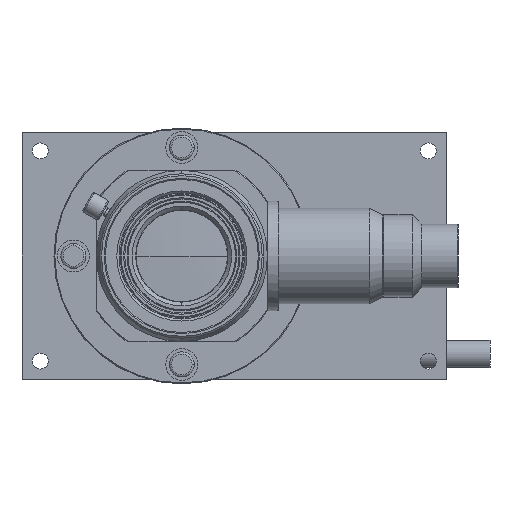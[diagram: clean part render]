
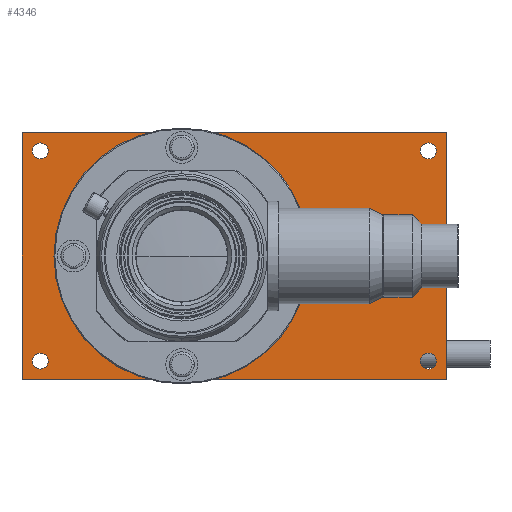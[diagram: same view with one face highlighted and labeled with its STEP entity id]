
A CAD part, left-side view. The second image highlights one B-rep face of the part: STEP entity #4346.
In plain terms, the highlighted planar face has unit normal (-1, 0, 0).
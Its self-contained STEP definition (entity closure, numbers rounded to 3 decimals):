
#53 = VERTEX_POINT ( 'NONE', #8215 ) ;
#158 = DIRECTION ( 'NONE',  ( 1., 0., 0. ) ) ;
#208 = CARTESIAN_POINT ( 'NONE',  ( -164.992, 35., 27. ) ) ;
#249 = CARTESIAN_POINT ( 'NONE',  ( -164.992, -54., 23. ) ) ;
#290 = DIRECTION ( 'NONE',  ( 0., 1., 0. ) ) ;
#420 = CARTESIAN_POINT ( 'NONE',  ( -164.992, 31., -21.25 ) ) ;
#449 = CIRCLE ( 'NONE', #3193, 1.75 ) ;
#571 = EDGE_LOOP ( 'NONE', ( #2048, #8032, #1003, #8927 ) ) ;
#578 = DIRECTION ( 'NONE',  ( 0., 0., -1. ) ) ;
#701 = AXIS2_PLACEMENT_3D ( 'NONE', #3864, #10530, #4809 ) ;
#730 = CARTESIAN_POINT ( 'NONE',  ( -164.992, -54., -23. ) ) ;
#769 = CARTESIAN_POINT ( 'NONE',  ( -164.992, 31., 21.25 ) ) ;
#814 = EDGE_CURVE ( 'NONE', #8146, #7114, #7080, .T. ) ;
#847 = ORIENTED_EDGE ( 'NONE', *, *, #1021, .T. ) ;
#1003 = ORIENTED_EDGE ( 'NONE', *, *, #12326, .F. ) ;
#1021 = EDGE_CURVE ( 'NONE', #9842, #12402, #9772, .T. ) ;
#1032 = LINE ( 'NONE', #208, #10584 ) ;
#1220 = DIRECTION ( 'NONE',  ( 0., 0., -1. ) ) ;
#1378 = DIRECTION ( 'NONE',  ( 0., 0., -1. ) ) ;
#1403 = AXIS2_PLACEMENT_3D ( 'NONE', #5859, #158, #6803 ) ;
#1462 = CIRCLE ( 'NONE', #701, 1.75 ) ;
#1478 = FACE_BOUND ( 'NONE', #4646, .T. ) ;
#1585 = DIRECTION ( 'NONE',  ( 1., 0., 0. ) ) ;
#1691 = AXIS2_PLACEMENT_3D ( 'NONE', #9135, #1585, #8248 ) ;
#1757 = EDGE_CURVE ( 'NONE', #5618, #2269, #9724, .T. ) ;
#1868 = CARTESIAN_POINT ( 'NONE',  ( -164.992, -54., -24.75 ) ) ;
#1953 = EDGE_CURVE ( 'NONE', #2269, #53, #9875, .T. ) ;
#2000 = CARTESIAN_POINT ( 'NONE',  ( -164.992, 0., -18.6 ) ) ;
#2044 = DIRECTION ( 'NONE',  ( 1., 0., 0. ) ) ;
#2048 = ORIENTED_EDGE ( 'NONE', *, *, #1757, .F. ) ;
#2154 = DIRECTION ( 'NONE',  ( 1., 0., 0. ) ) ;
#2265 = AXIS2_PLACEMENT_3D ( 'NONE', #12010, #8130, #578 ) ;
#2269 = VERTEX_POINT ( 'NONE', #7512 ) ;
#2289 = DIRECTION ( 'NONE',  ( 1., 0., 0. ) ) ;
#2395 = DIRECTION ( 'NONE',  ( 1., 0., 0. ) ) ;
#2496 = AXIS2_PLACEMENT_3D ( 'NONE', #730, #2289, #1378 ) ;
#2810 = CARTESIAN_POINT ( 'NONE',  ( -164.992, -54., 24.75 ) ) ;
#2848 = CARTESIAN_POINT ( 'NONE',  ( -164.992, -54., -21.25 ) ) ;
#2922 = CIRCLE ( 'NONE', #11088, 18.6 ) ;
#3075 = EDGE_CURVE ( 'NONE', #11385, #5326, #449, .T. ) ;
#3193 = AXIS2_PLACEMENT_3D ( 'NONE', #7853, #2154, #8822 ) ;
#3322 = DIRECTION ( 'NONE',  ( 1., 0., 0. ) ) ;
#3709 = DIRECTION ( 'NONE',  ( 0., 0., -1. ) ) ;
#3846 = VERTEX_POINT ( 'NONE', #9178 ) ;
#3864 = CARTESIAN_POINT ( 'NONE',  ( -164.992, 31., 23. ) ) ;
#3915 = EDGE_LOOP ( 'NONE', ( #7542, #10103 ) ) ;
#3985 = FACE_BOUND ( 'NONE', #5415, .T. ) ;
#4076 = EDGE_CURVE ( 'NONE', #5326, #11385, #1462, .T. ) ;
#4135 = ORIENTED_EDGE ( 'NONE', *, *, #11080, .T. ) ;
#4217 = CARTESIAN_POINT ( 'NONE',  ( -164.992, 35., 27. ) ) ;
#4346 = ADVANCED_FACE ( 'NONE', ( #9086, #6514, #3985, #1478, #11303, #11606 ), #7264, .F. ) ;
#4555 = CARTESIAN_POINT ( 'NONE',  ( -164.992, 31., 24.75 ) ) ;
#4646 = EDGE_LOOP ( 'NONE', ( #6799, #9359 ) ) ;
#4768 = VECTOR ( 'NONE', #3709, 1000. ) ;
#4809 = DIRECTION ( 'NONE',  ( 0., 0., -1. ) ) ;
#4923 = VERTEX_POINT ( 'NONE', #2810 ) ;
#4936 = EDGE_LOOP ( 'NONE', ( #11444, #4135 ) ) ;
#5028 = CIRCLE ( 'NONE', #11930, 1.75 ) ;
#5326 = VERTEX_POINT ( 'NONE', #769 ) ;
#5415 = EDGE_LOOP ( 'NONE', ( #8768, #9080 ) ) ;
#5472 = DIRECTION ( 'NONE',  ( 1., 0., 0. ) ) ;
#5520 = CIRCLE ( 'NONE', #11284, 1.75 ) ;
#5618 = VERTEX_POINT ( 'NONE', #4217 ) ;
#5854 = LINE ( 'NONE', #6935, #10637 ) ;
#5859 = CARTESIAN_POINT ( 'NONE',  ( -164.992, 0., 0. ) ) ;
#5914 = ORIENTED_EDGE ( 'NONE', *, *, #8872, .T. ) ;
#6217 = VERTEX_POINT ( 'NONE', #2000 ) ;
#6295 = EDGE_CURVE ( 'NONE', #3846, #4923, #5520, .T. ) ;
#6514 = FACE_BOUND ( 'NONE', #11688, .T. ) ;
#6544 = CIRCLE ( 'NONE', #8176, 1.75 ) ;
#6769 = CARTESIAN_POINT ( 'NONE',  ( -164.992, 0., 18.6 ) ) ;
#6799 = ORIENTED_EDGE ( 'NONE', *, *, #6295, .T. ) ;
#6803 = DIRECTION ( 'NONE',  ( 0., 0., -1. ) ) ;
#6904 = DIRECTION ( 'NONE',  ( 1., 0., 0. ) ) ;
#6935 = CARTESIAN_POINT ( 'NONE',  ( -164.992, 35., -27. ) ) ;
#7045 = EDGE_CURVE ( 'NONE', #11719, #5618, #1032, .T. ) ;
#7080 = CIRCLE ( 'NONE', #2496, 1.75 ) ;
#7114 = VERTEX_POINT ( 'NONE', #2848 ) ;
#7264 = PLANE ( 'NONE',  #1691 ) ;
#7379 = EDGE_CURVE ( 'NONE', #4923, #3846, #12084, .T. ) ;
#7511 = DIRECTION ( 'NONE',  ( 0., -1., 0. ) ) ;
#7512 = CARTESIAN_POINT ( 'NONE',  ( -164.992, -58., 27. ) ) ;
#7542 = ORIENTED_EDGE ( 'NONE', *, *, #4076, .T. ) ;
#7741 = AXIS2_PLACEMENT_3D ( 'NONE', #9033, #3322, #9980 ) ;
#7756 = CARTESIAN_POINT ( 'NONE',  ( -164.992, 0., 0. ) ) ;
#7798 = EDGE_CURVE ( 'NONE', #7114, #8146, #5028, .T. ) ;
#7853 = CARTESIAN_POINT ( 'NONE',  ( -164.992, 31., 23. ) ) ;
#8032 = ORIENTED_EDGE ( 'NONE', *, *, #7045, .F. ) ;
#8102 = CARTESIAN_POINT ( 'NONE',  ( -164.992, -54., -23. ) ) ;
#8130 = DIRECTION ( 'NONE',  ( 1., 0., 0. ) ) ;
#8146 = VERTEX_POINT ( 'NONE', #1868 ) ;
#8176 = AXIS2_PLACEMENT_3D ( 'NONE', #11200, #5472, #12160 ) ;
#8215 = CARTESIAN_POINT ( 'NONE',  ( -164.992, -58., -27. ) ) ;
#8248 = DIRECTION ( 'NONE',  ( 0., 0., -1. ) ) ;
#8523 = EDGE_CURVE ( 'NONE', #10738, #6217, #12394, .T. ) ;
#8722 = DIRECTION ( 'NONE',  ( 0., 0., -1. ) ) ;
#8757 = DIRECTION ( 'NONE',  ( 0., 0., 1. ) ) ;
#8768 = ORIENTED_EDGE ( 'NONE', *, *, #814, .T. ) ;
#8822 = DIRECTION ( 'NONE',  ( 0., 0., -1. ) ) ;
#8872 = EDGE_CURVE ( 'NONE', #12402, #9842, #6544, .T. ) ;
#8927 = ORIENTED_EDGE ( 'NONE', *, *, #1953, .F. ) ;
#9033 = CARTESIAN_POINT ( 'NONE',  ( -164.992, -54., 23. ) ) ;
#9059 = DIRECTION ( 'NONE',  ( 0., 0., -1. ) ) ;
#9080 = ORIENTED_EDGE ( 'NONE', *, *, #7798, .T. ) ;
#9086 = FACE_BOUND ( 'NONE', #3915, .T. ) ;
#9135 = CARTESIAN_POINT ( 'NONE',  ( -164.992, 0., 0. ) ) ;
#9178 = CARTESIAN_POINT ( 'NONE',  ( -164.992, -54., 21.25 ) ) ;
#9359 = ORIENTED_EDGE ( 'NONE', *, *, #7379, .T. ) ;
#9724 = LINE ( 'NONE', #12283, #11971 ) ;
#9772 = CIRCLE ( 'NONE', #2265, 1.75 ) ;
#9842 = VERTEX_POINT ( 'NONE', #9877 ) ;
#9875 = LINE ( 'NONE', #10371, #4768 ) ;
#9877 = CARTESIAN_POINT ( 'NONE',  ( -164.992, 31., -24.75 ) ) ;
#9980 = DIRECTION ( 'NONE',  ( 0., 0., -1. ) ) ;
#10103 = ORIENTED_EDGE ( 'NONE', *, *, #3075, .T. ) ;
#10371 = CARTESIAN_POINT ( 'NONE',  ( -164.992, -58., 27. ) ) ;
#10530 = DIRECTION ( 'NONE',  ( 1., 0., 0. ) ) ;
#10584 = VECTOR ( 'NONE', #8757, 1000. ) ;
#10637 = VECTOR ( 'NONE', #290, 1000. ) ;
#10738 = VERTEX_POINT ( 'NONE', #6769 ) ;
#11080 = EDGE_CURVE ( 'NONE', #6217, #10738, #2922, .T. ) ;
#11088 = AXIS2_PLACEMENT_3D ( 'NONE', #7756, #2044, #8722 ) ;
#11200 = CARTESIAN_POINT ( 'NONE',  ( -164.992, 31., -23. ) ) ;
#11284 = AXIS2_PLACEMENT_3D ( 'NONE', #249, #6904, #1220 ) ;
#11303 = FACE_OUTER_BOUND ( 'NONE', #571, .T. ) ;
#11385 = VERTEX_POINT ( 'NONE', #4555 ) ;
#11444 = ORIENTED_EDGE ( 'NONE', *, *, #8523, .T. ) ;
#11606 = FACE_BOUND ( 'NONE', #4936, .T. ) ;
#11688 = EDGE_LOOP ( 'NONE', ( #847, #5914 ) ) ;
#11719 = VERTEX_POINT ( 'NONE', #11800 ) ;
#11800 = CARTESIAN_POINT ( 'NONE',  ( -164.992, 35., -27. ) ) ;
#11930 = AXIS2_PLACEMENT_3D ( 'NONE', #8102, #2395, #9059 ) ;
#11971 = VECTOR ( 'NONE', #7511, 1000. ) ;
#12010 = CARTESIAN_POINT ( 'NONE',  ( -164.992, 31., -23. ) ) ;
#12084 = CIRCLE ( 'NONE', #7741, 1.75 ) ;
#12160 = DIRECTION ( 'NONE',  ( 0., 0., -1. ) ) ;
#12283 = CARTESIAN_POINT ( 'NONE',  ( -164.992, 35., 27. ) ) ;
#12326 = EDGE_CURVE ( 'NONE', #53, #11719, #5854, .T. ) ;
#12394 = CIRCLE ( 'NONE', #1403, 18.6 ) ;
#12402 = VERTEX_POINT ( 'NONE', #420 ) ;
